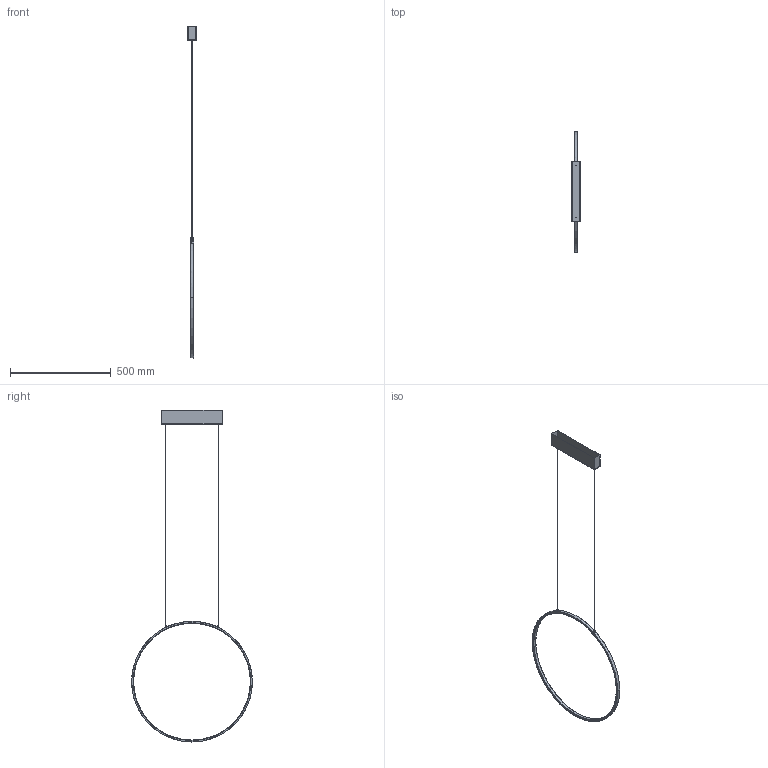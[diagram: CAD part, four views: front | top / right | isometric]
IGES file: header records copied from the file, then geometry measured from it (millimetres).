
Start section: SolidWorks IGES file using analytic representation for surfaces
Global section: file name: C:\Users\anna.bielnik\Desktop\modele 3D tymczasowe\CIRCOLO\CIRCOLO-LED-M-10811-10861 uzup\CIRCOLO-LED-M-10811-10861.IGS; native system: SolidWorks 2023; preprocessor: SolidWorks 2023; author: anna.bielnik; date: 230621.131045; units: millimetre
Bounding box: 41 x 600 x 1651 mm (x, y, z)
Surface area: 231740 mm2 (no closed solid volume)
Topology: 0 solids, 0 shells, 67 faces, 1088 edges, 1088 vertices
Faces by surface type: bspline 41, revolution 26
